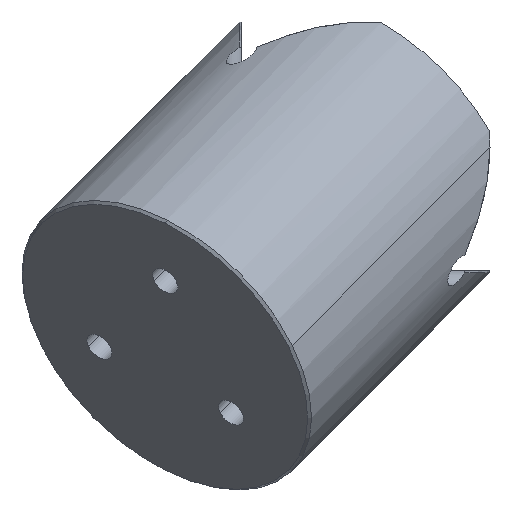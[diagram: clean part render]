
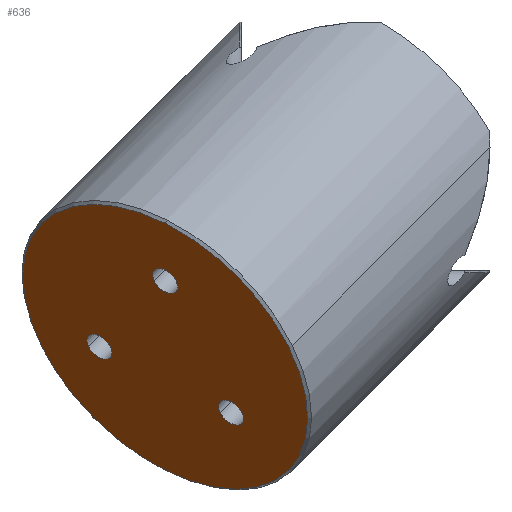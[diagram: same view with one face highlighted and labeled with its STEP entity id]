
A CAD part, left-side view. The second image highlights one B-rep face of the part: STEP entity #636.
In plain terms, the highlighted planar face has unit normal (-0.577, 0.577, -0.577).
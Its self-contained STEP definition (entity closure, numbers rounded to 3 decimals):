
#13 = CARTESIAN_POINT ( 'NONE',  ( -10.309, 26.785, -18.547 ) ) ;
#34 = ORIENTED_EDGE ( 'NONE', *, *, #1043, .T. ) ;
#69 = DIRECTION ( 'NONE',  ( -0.577, 0.577, -0.577 ) ) ;
#126 = AXIS2_PLACEMENT_3D ( 'NONE', #207, #914, #583 ) ;
#141 = CIRCLE ( 'NONE', #1060, 18.75 ) ;
#207 = CARTESIAN_POINT ( 'NONE',  ( -18.547, 11.476, -25.618 ) ) ;
#225 = ORIENTED_EDGE ( 'NONE', *, *, #2041, .F. ) ;
#244 = ORIENTED_EDGE ( 'NONE', *, *, #1831, .F. ) ;
#268 = EDGE_LOOP ( 'NONE', ( #382, #34 ) ) ;
#311 = CARTESIAN_POINT ( 'NONE',  ( -12.643, 24.451, -18.547 ) ) ;
#324 = DIRECTION ( 'NONE',  ( -0.577, 0.577, -0.577 ) ) ;
#338 = FACE_BOUND ( 'NONE', #2266, .T. ) ;
#378 = CARTESIAN_POINT ( 'NONE',  ( -11.476, 25.618, -18.547 ) ) ;
#382 = ORIENTED_EDGE ( 'NONE', *, *, #442, .T. ) ;
#442 = EDGE_CURVE ( 'NONE', #1008, #1050, #1535, .T. ) ;
#459 = DIRECTION ( 'NONE',  ( -0.707, -0.707, 0. ) ) ;
#461 = AXIS2_PLACEMENT_3D ( 'NONE', #378, #556, #1106 ) ;
#491 = DIRECTION ( 'NONE',  ( 0.707, 0.707, 0. ) ) ;
#518 = VERTEX_POINT ( 'NONE', #818 ) ;
#521 = FACE_BOUND ( 'NONE', #1968, .T. ) ;
#524 = VERTEX_POINT ( 'NONE', #1341 ) ;
#556 = DIRECTION ( 'NONE',  ( -0.577, 0.577, -0.577 ) ) ;
#573 = VERTEX_POINT ( 'NONE', #1922 ) ;
#583 = DIRECTION ( 'NONE',  ( -0.707, -0.707, 0. ) ) ;
#598 = DIRECTION ( 'NONE',  ( -0.577, 0.577, -0.577 ) ) ;
#624 = EDGE_CURVE ( 'NONE', #573, #518, #2215, .T. ) ;
#636 = ADVANCED_FACE ( 'NONE', ( #1216, #338, #521, #1037 ), #1186, .F. ) ;
#672 = DIRECTION ( 'NONE',  ( -0.577, 0.577, -0.577 ) ) ;
#676 = CARTESIAN_POINT ( 'NONE',  ( -18.547, 11.476, -25.618 ) ) ;
#677 = CIRCLE ( 'NONE', #461, 1.65 ) ;
#818 = CARTESIAN_POINT ( 'NONE',  ( -17.38, 12.643, -25.618 ) ) ;
#832 = EDGE_CURVE ( 'NONE', #1899, #1359, #1504, .T. ) ;
#881 = CARTESIAN_POINT ( 'NONE',  ( -24.451, 19.714, -11.476 ) ) ;
#906 = CIRCLE ( 'NONE', #1791, 1.65 ) ;
#914 = DIRECTION ( 'NONE',  ( -0.577, 0.577, -0.577 ) ) ;
#930 = DIRECTION ( 'NONE',  ( -0.707, -0.707, 0. ) ) ;
#937 = CARTESIAN_POINT ( 'NONE',  ( -18.547, 18.547, -18.547 ) ) ;
#1008 = VERTEX_POINT ( 'NONE', #1560 ) ;
#1037 = FACE_OUTER_BOUND ( 'NONE', #268, .T. ) ;
#1043 = EDGE_CURVE ( 'NONE', #1050, #1008, #141, .T. ) ;
#1045 = CARTESIAN_POINT ( 'NONE',  ( -18.547, 18.547, -18.547 ) ) ;
#1050 = VERTEX_POINT ( 'NONE', #1733 ) ;
#1060 = AXIS2_PLACEMENT_3D ( 'NONE', #1045, #672, #491 ) ;
#1073 = VERTEX_POINT ( 'NONE', #881 ) ;
#1100 = EDGE_CURVE ( 'NONE', #524, #1073, #1955, .T. ) ;
#1106 = DIRECTION ( 'NONE',  ( -0.707, -0.707, 0. ) ) ;
#1110 = ORIENTED_EDGE ( 'NONE', *, *, #1999, .F. ) ;
#1115 = CARTESIAN_POINT ( 'NONE',  ( -11.476, 25.618, -18.547 ) ) ;
#1186 = PLANE ( 'NONE',  #1209 ) ;
#1209 = AXIS2_PLACEMENT_3D ( 'NONE', #1226, #1934, #1760 ) ;
#1216 = FACE_BOUND ( 'NONE', #1460, .T. ) ;
#1226 = CARTESIAN_POINT ( 'NONE',  ( -18.547, 18.547, -18.547 ) ) ;
#1341 = CARTESIAN_POINT ( 'NONE',  ( -26.785, 17.38, -11.476 ) ) ;
#1355 = AXIS2_PLACEMENT_3D ( 'NONE', #1115, #69, #2190 ) ;
#1359 = VERTEX_POINT ( 'NONE', #13 ) ;
#1382 = ORIENTED_EDGE ( 'NONE', *, *, #624, .F. ) ;
#1460 = EDGE_LOOP ( 'NONE', ( #2126, #1110 ) ) ;
#1504 = CIRCLE ( 'NONE', #1355, 1.65 ) ;
#1526 = CIRCLE ( 'NONE', #126, 1.65 ) ;
#1535 = CIRCLE ( 'NONE', #1808, 18.75 ) ;
#1560 = CARTESIAN_POINT ( 'NONE',  ( -5.289, 18.547, -31.805 ) ) ;
#1733 = CARTESIAN_POINT ( 'NONE',  ( -31.805, 18.547, -5.289 ) ) ;
#1760 = DIRECTION ( 'NONE',  ( 0.707, 0.707, 0. ) ) ;
#1787 = CARTESIAN_POINT ( 'NONE',  ( -25.618, 18.547, -11.476 ) ) ;
#1791 = AXIS2_PLACEMENT_3D ( 'NONE', #1878, #2043, #459 ) ;
#1808 = AXIS2_PLACEMENT_3D ( 'NONE', #937, #598, #2012 ) ;
#1820 = DIRECTION ( 'NONE',  ( -0.577, 0.577, -0.577 ) ) ;
#1831 = EDGE_CURVE ( 'NONE', #518, #573, #1526, .T. ) ;
#1878 = CARTESIAN_POINT ( 'NONE',  ( -25.618, 18.547, -11.476 ) ) ;
#1899 = VERTEX_POINT ( 'NONE', #311 ) ;
#1913 = ORIENTED_EDGE ( 'NONE', *, *, #1100, .F. ) ;
#1922 = CARTESIAN_POINT ( 'NONE',  ( -19.714, 10.309, -25.618 ) ) ;
#1934 = DIRECTION ( 'NONE',  ( 0.577, -0.577, 0.577 ) ) ;
#1955 = CIRCLE ( 'NONE', #2060, 1.65 ) ;
#1968 = EDGE_LOOP ( 'NONE', ( #1382, #244 ) ) ;
#1999 = EDGE_CURVE ( 'NONE', #1359, #1899, #677, .T. ) ;
#2012 = DIRECTION ( 'NONE',  ( 0.707, 0.707, 0. ) ) ;
#2041 = EDGE_CURVE ( 'NONE', #1073, #524, #906, .T. ) ;
#2043 = DIRECTION ( 'NONE',  ( -0.577, 0.577, -0.577 ) ) ;
#2060 = AXIS2_PLACEMENT_3D ( 'NONE', #1787, #1820, #930 ) ;
#2090 = DIRECTION ( 'NONE',  ( -0.707, -0.707, 0. ) ) ;
#2126 = ORIENTED_EDGE ( 'NONE', *, *, #832, .F. ) ;
#2135 = AXIS2_PLACEMENT_3D ( 'NONE', #676, #324, #2090 ) ;
#2190 = DIRECTION ( 'NONE',  ( -0.707, -0.707, 0. ) ) ;
#2215 = CIRCLE ( 'NONE', #2135, 1.65 ) ;
#2266 = EDGE_LOOP ( 'NONE', ( #1913, #225 ) ) ;
